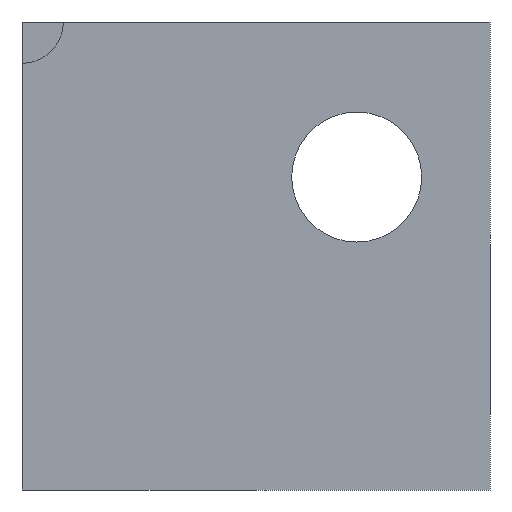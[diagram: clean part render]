
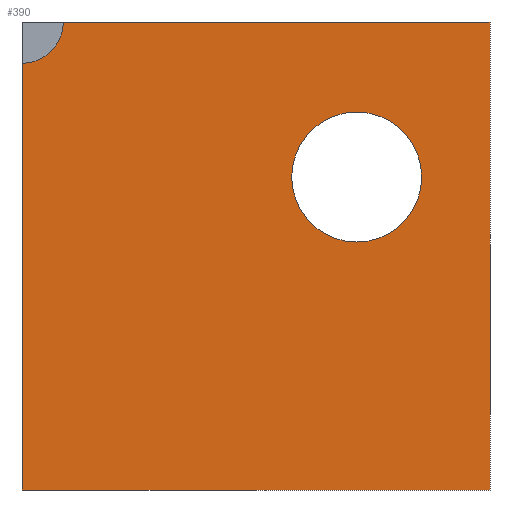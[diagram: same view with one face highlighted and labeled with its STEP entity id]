
A CAD part, left-side view. The second image highlights one B-rep face of the part: STEP entity #390.
In plain terms, the highlighted planar face has unit normal (-1, 0, 0).
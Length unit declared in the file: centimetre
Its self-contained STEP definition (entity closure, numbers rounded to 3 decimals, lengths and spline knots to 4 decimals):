
#1 = EDGE_CURVE ( 'NONE', #43, #269, #183, .T. ) ;
#10 = ORIENTED_EDGE ( 'NONE', *, *, #558, .F. ) ;
#22 = CARTESIAN_POINT ( 'NONE',  ( 0., 1000., 0. ) ) ;
#29 = LINE ( 'NONE', #346, #37 ) ;
#37 = VECTOR ( 'NONE', #129, 100. ) ;
#43 = VERTEX_POINT ( 'NONE', #281 ) ;
#46 = EDGE_LOOP ( 'NONE', ( #380, #10, #142, #93, #133 ) ) ;
#48 = AXIS2_PLACEMENT_3D ( 'NONE', #467, #410, #187 ) ;
#80 = CARTESIAN_POINT ( 'NONE',  ( 0., 1000., 1000. ) ) ;
#89 = EDGE_CURVE ( 'NONE', #226, #384, #478, .T. ) ;
#91 = CARTESIAN_POINT ( 'NONE',  ( 0., 1000., 1000. ) ) ;
#93 = ORIENTED_EDGE ( 'NONE', *, *, #198, .T. ) ;
#116 = EDGE_CURVE ( 'NONE', #384, #448, #29, .T. ) ;
#118 = VERTEX_POINT ( 'NONE', #480 ) ;
#121 = DIRECTION ( 'NONE',  ( 0., -1., 0. ) ) ;
#127 = EDGE_CURVE ( 'NONE', #118, #166, #362, .T. ) ;
#129 = DIRECTION ( 'NONE',  ( 0., 0., -1. ) ) ;
#133 = ORIENTED_EDGE ( 'NONE', *, *, #116, .F. ) ;
#142 = ORIENTED_EDGE ( 'NONE', *, *, #1, .T. ) ;
#143 = ORIENTED_EDGE ( 'NONE', *, *, #327, .T. ) ;
#166 = VERTEX_POINT ( 'NONE', #175 ) ;
#175 = CARTESIAN_POINT ( 'NONE',  ( 0., 284.8092, 807.4813 ) ) ;
#183 = LINE ( 'NONE', #91, #402 ) ;
#187 = DIRECTION ( 'NONE',  ( 0., 0., 1. ) ) ;
#191 = CARTESIAN_POINT ( 'NONE',  ( 0., 0., 0. ) ) ;
#198 = EDGE_CURVE ( 'NONE', #269, #448, #313, .T. ) ;
#213 = DIRECTION ( 'NONE',  ( 1., 0., 0. ) ) ;
#219 = CARTESIAN_POINT ( 'NONE',  ( 0., 911.7902, 1000. ) ) ;
#226 = VERTEX_POINT ( 'NONE', #219 ) ;
#244 = DIRECTION ( 'NONE',  ( 1., 0., 0. ) ) ;
#260 = DIRECTION ( 'NONE',  ( 0., -1., 0. ) ) ;
#269 = VERTEX_POINT ( 'NONE', #22 ) ;
#272 = CIRCLE ( 'NONE', #297, 138.8647 ) ;
#281 = CARTESIAN_POINT ( 'NONE',  ( 0., 1000., 911.7902 ) ) ;
#297 = AXIS2_PLACEMENT_3D ( 'NONE', #509, #344, #517 ) ;
#301 = CARTESIAN_POINT ( 'NONE',  ( 0., 0., 1000. ) ) ;
#311 = CARTESIAN_POINT ( 'NONE',  ( 0., 1000., 0. ) ) ;
#312 = VECTOR ( 'NONE', #121, 100. ) ;
#313 = LINE ( 'NONE', #311, #573 ) ;
#327 = EDGE_CURVE ( 'NONE', #166, #118, #272, .T. ) ;
#344 = DIRECTION ( 'NONE',  ( 1., 0., 0. ) ) ;
#346 = CARTESIAN_POINT ( 'NONE',  ( 0., 0., 1000. ) ) ;
#362 = CIRCLE ( 'NONE', #488, 138.8647 ) ;
#372 = ORIENTED_EDGE ( 'NONE', *, *, #127, .T. ) ;
#377 = FACE_BOUND ( 'NONE', #581, .T. ) ;
#380 = ORIENTED_EDGE ( 'NONE', *, *, #89, .F. ) ;
#381 = DIRECTION ( 'NONE',  ( 0., 0., -1. ) ) ;
#384 = VERTEX_POINT ( 'NONE', #301 ) ;
#390 = ADVANCED_FACE ( 'NONE', ( #377, #424 ), #553, .F. ) ;
#392 = CIRCLE ( 'NONE', #48, 88.2098 ) ;
#402 = VECTOR ( 'NONE', #457, 100. ) ;
#410 = DIRECTION ( 'NONE',  ( -1., 0., 0. ) ) ;
#424 = FACE_OUTER_BOUND ( 'NONE', #46, .T. ) ;
#442 = DIRECTION ( 'NONE',  ( 0., 0., -1. ) ) ;
#448 = VERTEX_POINT ( 'NONE', #191 ) ;
#457 = DIRECTION ( 'NONE',  ( 0., 0., -1. ) ) ;
#467 = CARTESIAN_POINT ( 'NONE',  ( 0., 1000., 1000. ) ) ;
#475 = CARTESIAN_POINT ( 'NONE',  ( 0., 1000., 1000. ) ) ;
#478 = LINE ( 'NONE', #80, #312 ) ;
#480 = CARTESIAN_POINT ( 'NONE',  ( 0., 284.8092, 529.7519 ) ) ;
#486 = CARTESIAN_POINT ( 'NONE',  ( 0., 284.8092, 668.6166 ) ) ;
#488 = AXIS2_PLACEMENT_3D ( 'NONE', #486, #213, #442 ) ;
#497 = AXIS2_PLACEMENT_3D ( 'NONE', #475, #244, #381 ) ;
#509 = CARTESIAN_POINT ( 'NONE',  ( 0., 284.8092, 668.6166 ) ) ;
#517 = DIRECTION ( 'NONE',  ( 0., 0., -1. ) ) ;
#553 = PLANE ( 'NONE',  #497 ) ;
#558 = EDGE_CURVE ( 'NONE', #43, #226, #392, .T. ) ;
#573 = VECTOR ( 'NONE', #260, 100. ) ;
#581 = EDGE_LOOP ( 'NONE', ( #372, #143 ) ) ;
